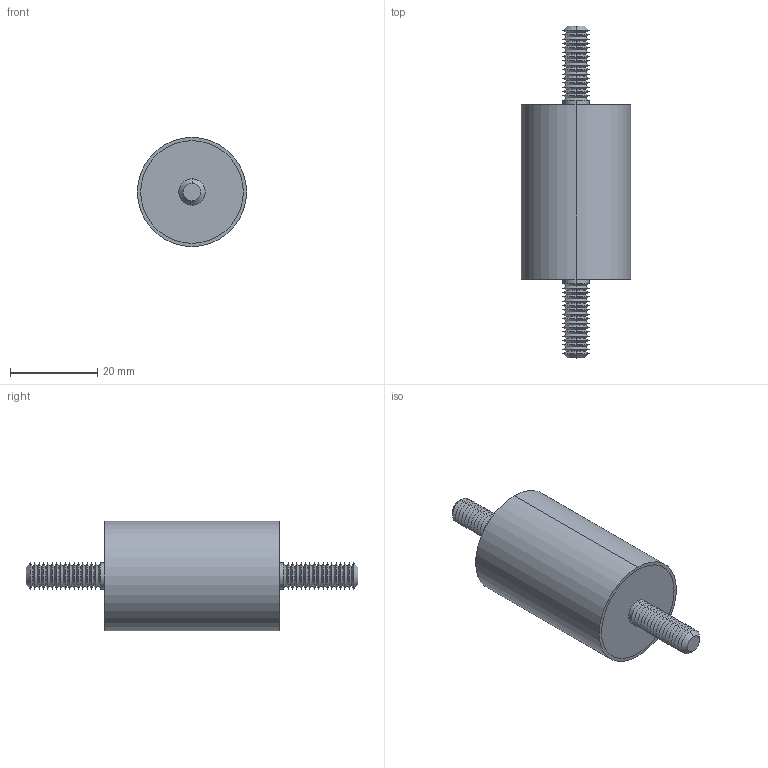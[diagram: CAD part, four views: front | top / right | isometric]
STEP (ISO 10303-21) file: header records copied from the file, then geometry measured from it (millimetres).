
FILE_DESCRIPTION (( 'STEP AP203' ), '1' );
FILE_NAME ('61040.W0258.step', '2019-09-24T22:33:06', ( '' ), ( '' ), 'SwSTEP 2.0', 'SolidWorks 2017', '' );
FILE_SCHEMA (( 'CONFIG_CONTROL_DESIGN' ));
Length unit declared in the file: millimetre
Products named in the file (4): Part2_61040.W0258; Part1_61040.W0258; Part3_61040.W0258; 61040.W0258
Assembly tree (3 placements, depth 2):
  61040.W0258
    Part1_61040.W0258
    Part2_61040.W0258
    Part3_61040.W0258
Bounding box: 25 x 76 x 25 mm (x, y, z)
Volume: 20400 mm3; surface area: 7384.2 mm2
Topology: 3 solids, 3 shells, 156 faces, 306 edges, 160 vertices
Faces by surface type: cone 132, cylinder 14, plane 10
Entity records: 4308 total; most frequent: DIRECTION 790, CARTESIAN_POINT 628, ORIENTED_EDGE 612, AXIS2_PLACEMENT_3D 322, EDGE_CURVE 306, EDGE_LOOP 160, CIRCLE 160, VERTEX_POINT 160
